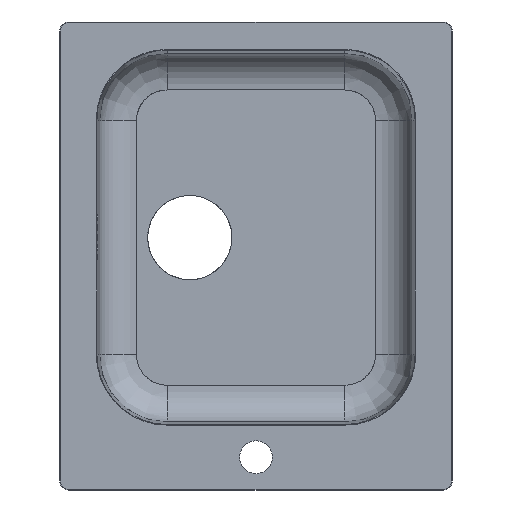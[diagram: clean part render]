
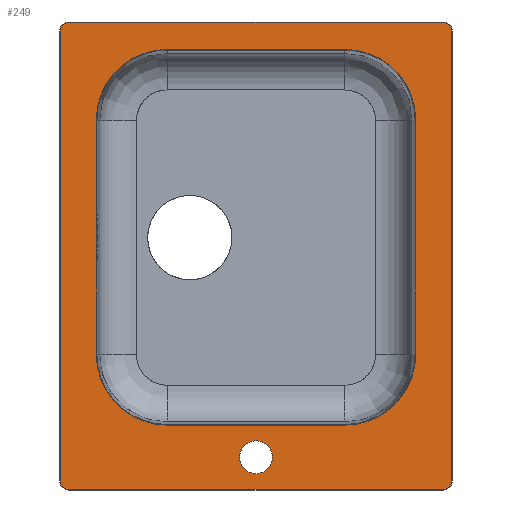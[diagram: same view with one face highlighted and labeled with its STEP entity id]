
A CAD part, top view. The second image highlights one B-rep face of the part: STEP entity #249.
In plain terms, the highlighted planar face has unit normal (0, 0, 1).
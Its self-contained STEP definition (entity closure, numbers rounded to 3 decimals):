
#69=CARTESIAN_POINT('Vertex',(-17.5,-215.,8.)) ;
#72=CARTESIAN_POINT('Axis2P3D Location',(0.,-215.,8.)) ;
#76=CARTESIAN_POINT('Vertex',(17.5,-215.,8.)) ;
#96=CARTESIAN_POINT('Axis2P3D Location',(0.,-215.,8.)) ;
#108=CARTESIAN_POINT('Axis2P3D Location',(0.,0.,8.)) ;
#113=CARTESIAN_POINT('Axis2P3D Location',(200.,240.,8.)) ;
#117=CARTESIAN_POINT('Vertex',(210.,240.,8.)) ;
#119=CARTESIAN_POINT('Vertex',(200.,250.,8.)) ;
#122=CARTESIAN_POINT('Line Origine',(0.,250.,8.)) ;
#126=CARTESIAN_POINT('Vertex',(-200.,250.,8.)) ;
#129=CARTESIAN_POINT('Axis2P3D Location',(-200.,240.,8.)) ;
#133=CARTESIAN_POINT('Vertex',(-210.,240.,8.)) ;
#136=CARTESIAN_POINT('Line Origine',(-210.,0.,8.)) ;
#140=CARTESIAN_POINT('Vertex',(-210.,-240.,8.)) ;
#143=CARTESIAN_POINT('Axis2P3D Location',(-200.,-240.,8.)) ;
#147=CARTESIAN_POINT('Vertex',(-200.,-250.,8.)) ;
#150=CARTESIAN_POINT('Line Origine',(0.,-250.,8.)) ;
#154=CARTESIAN_POINT('Vertex',(200.,-250.,8.)) ;
#157=CARTESIAN_POINT('Axis2P3D Location',(200.,-240.,8.)) ;
#161=CARTESIAN_POINT('Vertex',(210.,-240.,8.)) ;
#164=CARTESIAN_POINT('Line Origine',(210.,0.,8.)) ;
#183=CARTESIAN_POINT('Axis2P3D Location',(95.,-105.,8.)) ;
#187=CARTESIAN_POINT('Vertex',(95.,-180.,8.)) ;
#189=CARTESIAN_POINT('Vertex',(170.,-105.,8.)) ;
#192=CARTESIAN_POINT('Line Origine',(0.,-180.,8.)) ;
#196=CARTESIAN_POINT('Vertex',(-95.,-180.,8.)) ;
#199=CARTESIAN_POINT('Axis2P3D Location',(-95.,-105.,8.)) ;
#203=CARTESIAN_POINT('Vertex',(-170.,-105.,8.)) ;
#206=CARTESIAN_POINT('Line Origine',(-170.,20.,8.)) ;
#210=CARTESIAN_POINT('Vertex',(-170.,145.,8.)) ;
#213=CARTESIAN_POINT('Axis2P3D Location',(-95.,145.,8.)) ;
#217=CARTESIAN_POINT('Vertex',(-95.,220.,8.)) ;
#220=CARTESIAN_POINT('Line Origine',(0.,220.,8.)) ;
#224=CARTESIAN_POINT('Vertex',(95.,220.,8.)) ;
#227=CARTESIAN_POINT('Axis2P3D Location',(95.,145.,8.)) ;
#231=CARTESIAN_POINT('Vertex',(170.,145.,8.)) ;
#234=CARTESIAN_POINT('Line Origine',(170.,20.,8.)) ;
#73=DIRECTION('Axis2P3D Direction',(0.,0.,1.)) ;
#97=DIRECTION('Axis2P3D Direction',(0.,0.,1.)) ;
#109=DIRECTION('Axis2P3D Direction',(0.,0.,1.)) ;
#110=DIRECTION('Axis2P3D XDirection',(1.,0.,0.)) ;
#114=DIRECTION('Axis2P3D Direction',(0.,0.,1.)) ;
#123=DIRECTION('Vector Direction',(1.,0.,0.)) ;
#130=DIRECTION('Axis2P3D Direction',(0.,0.,1.)) ;
#137=DIRECTION('Vector Direction',(0.,1.,0.)) ;
#144=DIRECTION('Axis2P3D Direction',(0.,0.,1.)) ;
#151=DIRECTION('Vector Direction',(-1.,0.,0.)) ;
#158=DIRECTION('Axis2P3D Direction',(0.,0.,1.)) ;
#165=DIRECTION('Vector Direction',(0.,-1.,0.)) ;
#184=DIRECTION('Axis2P3D Direction',(0.,0.,1.)) ;
#193=DIRECTION('Vector Direction',(-1.,0.,0.)) ;
#200=DIRECTION('Axis2P3D Direction',(0.,0.,1.)) ;
#207=DIRECTION('Vector Direction',(0.,1.,0.)) ;
#214=DIRECTION('Axis2P3D Direction',(0.,0.,1.)) ;
#221=DIRECTION('Vector Direction',(1.,0.,0.)) ;
#228=DIRECTION('Axis2P3D Direction',(0.,0.,1.)) ;
#235=DIRECTION('Vector Direction',(0.,-1.,0.)) ;
#74=AXIS2_PLACEMENT_3D('Circle Axis2P3D',#72,#73,$) ;
#98=AXIS2_PLACEMENT_3D('Circle Axis2P3D',#96,#97,$) ;
#111=AXIS2_PLACEMENT_3D('Plane Axis2P3D',#108,#109,#110) ;
#115=AXIS2_PLACEMENT_3D('Circle Axis2P3D',#113,#114,$) ;
#131=AXIS2_PLACEMENT_3D('Circle Axis2P3D',#129,#130,$) ;
#145=AXIS2_PLACEMENT_3D('Circle Axis2P3D',#143,#144,$) ;
#159=AXIS2_PLACEMENT_3D('Circle Axis2P3D',#157,#158,$) ;
#185=AXIS2_PLACEMENT_3D('Circle Axis2P3D',#183,#184,$) ;
#201=AXIS2_PLACEMENT_3D('Circle Axis2P3D',#199,#200,$) ;
#215=AXIS2_PLACEMENT_3D('Circle Axis2P3D',#213,#214,$) ;
#229=AXIS2_PLACEMENT_3D('Circle Axis2P3D',#227,#228,$) ;
#170=ORIENTED_EDGE('',*,*,#121,.T.) ;
#171=ORIENTED_EDGE('',*,*,#128,.T.) ;
#172=ORIENTED_EDGE('',*,*,#135,.T.) ;
#173=ORIENTED_EDGE('',*,*,#142,.T.) ;
#174=ORIENTED_EDGE('',*,*,#149,.T.) ;
#175=ORIENTED_EDGE('',*,*,#156,.T.) ;
#176=ORIENTED_EDGE('',*,*,#163,.T.) ;
#177=ORIENTED_EDGE('',*,*,#168,.T.) ;
#180=ORIENTED_EDGE('',*,*,#100,.F.) ;
#181=ORIENTED_EDGE('',*,*,#78,.F.) ;
#240=ORIENTED_EDGE('',*,*,#191,.F.) ;
#241=ORIENTED_EDGE('',*,*,#198,.F.) ;
#242=ORIENTED_EDGE('',*,*,#205,.F.) ;
#243=ORIENTED_EDGE('',*,*,#212,.F.) ;
#244=ORIENTED_EDGE('',*,*,#219,.F.) ;
#245=ORIENTED_EDGE('',*,*,#226,.F.) ;
#246=ORIENTED_EDGE('',*,*,#233,.F.) ;
#247=ORIENTED_EDGE('',*,*,#238,.F.) ;
#182=FACE_BOUND('',#179,.T.) ;
#248=FACE_BOUND('',#239,.T.) ;
#124=VECTOR('Line Direction',#123,1.) ;
#138=VECTOR('Line Direction',#137,1.) ;
#152=VECTOR('Line Direction',#151,1.) ;
#166=VECTOR('Line Direction',#165,1.) ;
#194=VECTOR('Line Direction',#193,1.) ;
#208=VECTOR('Line Direction',#207,1.) ;
#222=VECTOR('Line Direction',#221,1.) ;
#236=VECTOR('Line Direction',#235,1.) ;
#249=ADVANCED_FACE('Invaso',(#178,#182,#248),#112,.T.) ;
#75=CIRCLE('generated circle',#74,17.5) ;
#99=CIRCLE('generated circle',#98,17.5) ;
#116=CIRCLE('generated circle',#115,10.) ;
#132=CIRCLE('generated circle',#131,10.) ;
#146=CIRCLE('generated circle',#145,10.) ;
#160=CIRCLE('generated circle',#159,10.) ;
#186=CIRCLE('generated circle',#185,75.) ;
#202=CIRCLE('generated circle',#201,75.) ;
#216=CIRCLE('generated circle',#215,75.) ;
#230=CIRCLE('generated circle',#229,75.) ;
#78=EDGE_CURVE('',#70,#77,#75,.T.) ;
#100=EDGE_CURVE('',#77,#70,#99,.T.) ;
#121=EDGE_CURVE('',#118,#120,#116,.T.) ;
#128=EDGE_CURVE('',#120,#127,#125,.F.) ;
#135=EDGE_CURVE('',#127,#134,#132,.T.) ;
#142=EDGE_CURVE('',#134,#141,#139,.F.) ;
#149=EDGE_CURVE('',#141,#148,#146,.T.) ;
#156=EDGE_CURVE('',#148,#155,#153,.F.) ;
#163=EDGE_CURVE('',#155,#162,#160,.T.) ;
#168=EDGE_CURVE('',#162,#118,#167,.F.) ;
#191=EDGE_CURVE('',#188,#190,#186,.T.) ;
#198=EDGE_CURVE('',#197,#188,#195,.F.) ;
#205=EDGE_CURVE('',#204,#197,#202,.T.) ;
#212=EDGE_CURVE('',#211,#204,#209,.F.) ;
#219=EDGE_CURVE('',#218,#211,#216,.T.) ;
#226=EDGE_CURVE('',#225,#218,#223,.F.) ;
#233=EDGE_CURVE('',#232,#225,#230,.T.) ;
#238=EDGE_CURVE('',#190,#232,#237,.F.) ;
#169=EDGE_LOOP('',(#170,#171,#172,#173,#174,#175,#176,#177)) ;
#179=EDGE_LOOP('',(#180,#181)) ;
#239=EDGE_LOOP('',(#240,#241,#242,#243,#244,#245,#246,#247)) ;
#178=FACE_OUTER_BOUND('',#169,.T.) ;
#125=LINE('Line',#122,#124) ;
#139=LINE('Line',#136,#138) ;
#153=LINE('Line',#150,#152) ;
#167=LINE('Line',#164,#166) ;
#195=LINE('Line',#192,#194) ;
#209=LINE('Line',#206,#208) ;
#223=LINE('Line',#220,#222) ;
#237=LINE('Line',#234,#236) ;
#112=PLANE('',#111) ;
#70=VERTEX_POINT('',#69) ;
#77=VERTEX_POINT('',#76) ;
#118=VERTEX_POINT('',#117) ;
#120=VERTEX_POINT('',#119) ;
#127=VERTEX_POINT('',#126) ;
#134=VERTEX_POINT('',#133) ;
#141=VERTEX_POINT('',#140) ;
#148=VERTEX_POINT('',#147) ;
#155=VERTEX_POINT('',#154) ;
#162=VERTEX_POINT('',#161) ;
#188=VERTEX_POINT('',#187) ;
#190=VERTEX_POINT('',#189) ;
#197=VERTEX_POINT('',#196) ;
#204=VERTEX_POINT('',#203) ;
#211=VERTEX_POINT('',#210) ;
#218=VERTEX_POINT('',#217) ;
#225=VERTEX_POINT('',#224) ;
#232=VERTEX_POINT('',#231) ;
